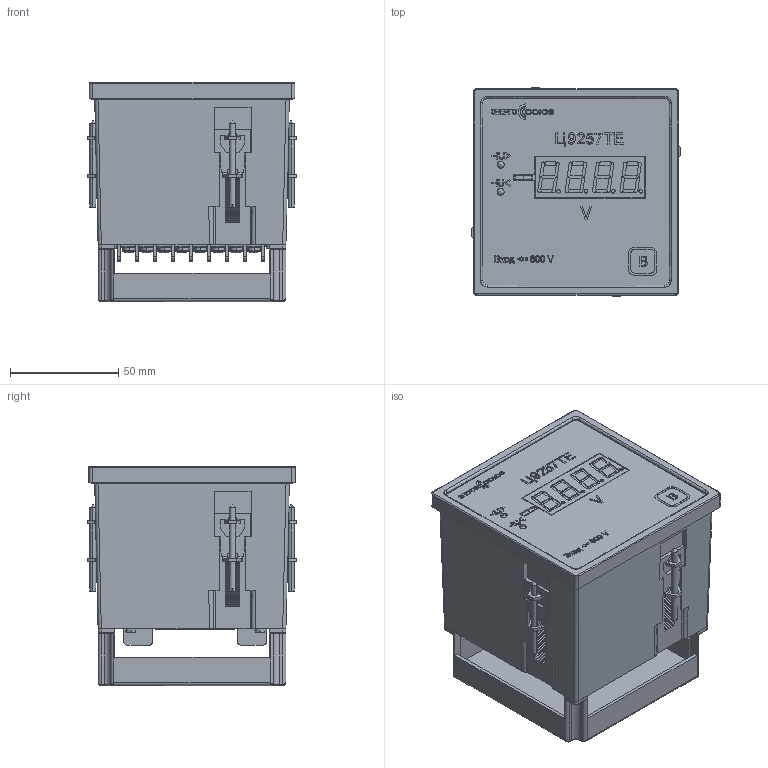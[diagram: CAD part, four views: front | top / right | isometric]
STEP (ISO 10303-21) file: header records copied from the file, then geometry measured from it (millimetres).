
FILE_DESCRIPTION (( 'STEP AP214' ), '1' );
FILE_NAME ('c9257te_96x96x103(less-then-600V).STEP', '2025-01-17T11:41:05', ( '' ), ( '' ), 'SwSTEP 2.0', 'SolidWorks 2021', '' );
FILE_SCHEMA (( 'AUTOMOTIVE_DESIGN' ));
Length unit declared in the file: millimetre
Products named in the file (21): ramka-TE; green-led; back-panel-TE; pan head cross recess screw_iso_ISO 7045 - M3 x 4 - Z --- 4N; Ñáîðêà ñêîáà ÖÔ9285_step; FYQ-5641_step; øàéáà DG35;  front-panel-9257TE^sborka-c9257te-60V_step; Êîïèÿ sborka-FYQ-5641^sborka-c9257te-60V_step; OsnovaTE_step; Êîïèÿ round led-2^sborka-c9257te-60V_step; Ñêîáà DG35; îñíîâàíèå DG35; Âèíò äëÿ ñêîáû ÖÔ9285_step; Äåòàëü1^Êîïèÿ sborka-FYQ-5641_sborka-c9257te-60V_step; Êîïèÿ Êîïèÿ round led-2^sborka-c9257te-60V_step; slotted cheese head screw_iso_ISO 1207 - M2.5 x 10 - 10N; c9257te_96x96x103(less-then-600V);  back-label-te57^sborka-c9257te-60V_step; Ñêîáà ÖÔ9285_step; 鼁闉罻 DG35
Assembly tree (48 placements, depth 3):
  Äåòàëü1^Êîïèÿ sborka-FYQ-5641_sborka-c9257te-60V_step
  c9257te_96x96x103(less-then-600V)
    OsnovaTE_step
     front-panel-9257TE^sborka-c9257te-60V_step
    ramka-TE
    back-panel-TE
    Ñáîðêà ñêîáà ÖÔ9285_step  x4
      Ñêîáà ÖÔ9285_step
      Âèíò äëÿ ñêîáû ÖÔ9285_step
    Êîïèÿ round led-2^sborka-c9257te-60V_step
    Êîïèÿ Êîïèÿ round led-2^sborka-c9257te-60V_step
    green-led  x2
    Êîïèÿ sborka-FYQ-5641^sborka-c9257te-60V_step
      FYQ-5641_step
    鼁闉罻 DG35  x2
      îñíîâàíèå DG35
      Ñêîáà DG35
      pan head cross recess screw_iso_ISO 7045 - M3 x 4 - Z --- 4N
      øàéáà DG35
     back-label-te57^sborka-c9257te-60V_step
    slotted cheese head screw_iso_ISO 1207 - M2.5 x 10 - 10N  x4
Bounding box: 96.76 x 96.76 x 101.41 mm (x, y, z)
Volume: 136836.6 mm3; surface area: 159747.9 mm2
Topology: 154 solids, 154 shells, 5686 faces, 14139 edges, 8842 vertices
Faces by surface type: plane 3265, bspline 1039, cylinder 1000, cone 192, sphere 106, torus 84
Entity records: 107460 total; most frequent: CARTESIAN_POINT 39134, ORIENTED_EDGE 14514, DIRECTION 12002, EDGE_CURVE 7257, LINE 5276, VECTOR 5276, VERTEX_POINT 4750, AXIS2_PLACEMENT_3D 3363
